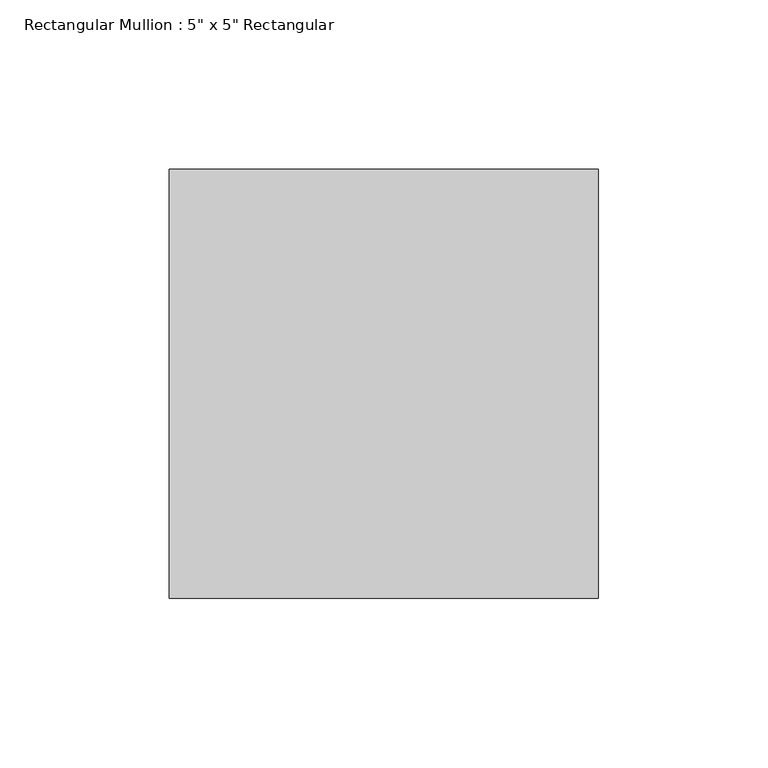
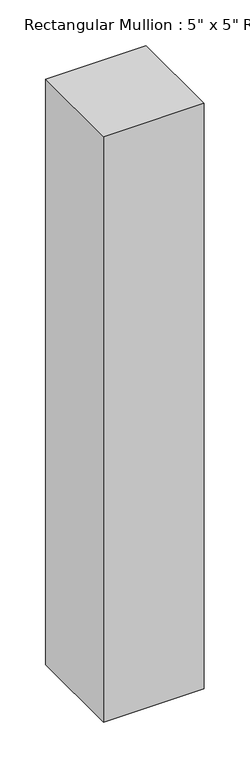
"""IFC4 building model written with IfcOpenShell, lengths in millimetres: member geometry."""

from ifc_helpers import new_model, si_unit, frame, origin, place, context, project, spatial, polyline, outline, extrude, source, transform, mapped, element, save


def member_6f657a4a(model_context):
    return source(origin(), model_context, "Body", "SweptSolid", [
        extrude(outline(polyline([(0.0, 63.5), (0.0, -63.5), (-127.0, -63.5), (-127.0, 63.5), (0.0, 63.5)])), frame((0.0, 0.0, -781.05), z_axis=(0.0, 0.0, 1.0), x_axis=(1.0, 0.0, 0.0)), (0.0, 0.0, 1.0), 781.05),
    ])


if __name__ == "__main__":
    model = new_model("IFC4")
    model_context = context("Model", 3, world=origin())
    ifc_project = project(units=[si_unit("LENGTHUNIT", "METRE", prefix="MILLI")], contexts=[model_context])
    site = spatial("IfcSite", under=ifc_project)
    building = spatial("IfcBuilding", under=site)
    placement = place(None, origin())
    member_shape = member_6f657a4a(model_context)
    element("IfcMember", 1, ObjectType="Rectangular Mullion : 5\" x 5\" Rectangular", at=placement, inside=building, context=model_context, shape_type="MappedRepresentation", body=[
        mapped(member_shape, transform((0.0, 0.0, 0.0), x_axis=(1.0, 0.0, 0.0), y_axis=(0.0, 1.0, 0.0), z_axis=(0.0, 0.0, 1.0))),
    ])
    save(model, "model.ifc")
